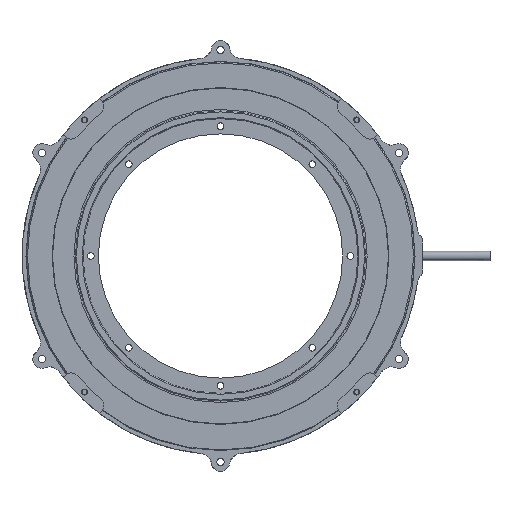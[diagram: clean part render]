
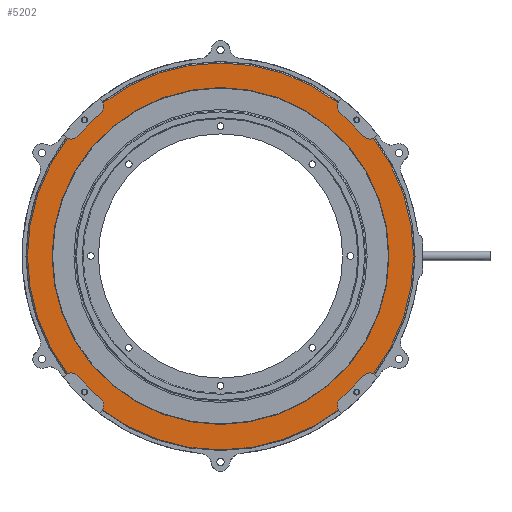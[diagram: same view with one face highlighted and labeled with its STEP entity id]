
A CAD part, front view. The second image highlights one B-rep face of the part: STEP entity #5202.
In plain terms, the highlighted planar face has unit normal (0, -1, 0).
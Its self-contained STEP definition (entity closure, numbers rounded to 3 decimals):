
#128=FACE_BOUND('',#876,.T.);
#242=PLANE('',#5692);
#573=FACE_OUTER_BOUND('',#875,.T.);
#875=EDGE_LOOP('',(#3686,#3687,#3688,#3689,#3690,#3691,#3692,#3693,#3694,
#3695,#3696,#3697,#3698,#3699,#3700,#3701));
#876=EDGE_LOOP('',(#3702));
#1947=CIRCLE('',#5672,63.2);
#1949=CIRCLE('',#5675,3.);
#1952=CIRCLE('',#5680,63.2);
#1954=CIRCLE('',#5683,3.);
#1957=CIRCLE('',#5688,63.2);
#1958=CIRCLE('',#5690,3.);
#1960=CIRCLE('',#5693,61.);
#1961=CIRCLE('',#5694,3.);
#1962=CIRCLE('',#5695,61.);
#1963=CIRCLE('',#5696,3.);
#1964=CIRCLE('',#5697,61.);
#1965=CIRCLE('',#5698,3.);
#1966=CIRCLE('',#5699,63.5);
#1967=CIRCLE('',#5700,3.);
#1968=CIRCLE('',#5701,61.);
#1969=CIRCLE('',#5702,3.);
#1970=CIRCLE('',#5703,55.15);
#2314=VERTEX_POINT('',#8179);
#2316=VERTEX_POINT('',#8186);
#2320=VERTEX_POINT('',#8199);
#2323=VERTEX_POINT('',#8208);
#2325=VERTEX_POINT('',#8215);
#2329=VERTEX_POINT('',#8228);
#2332=VERTEX_POINT('',#8237);
#2334=VERTEX_POINT('',#8244);
#2335=VERTEX_POINT('',#8251);
#2339=VERTEX_POINT('',#8261);
#2340=VERTEX_POINT('',#8265);
#2341=VERTEX_POINT('',#8267);
#2342=VERTEX_POINT('',#8269);
#2343=VERTEX_POINT('',#8271);
#2344=VERTEX_POINT('',#8273);
#2345=VERTEX_POINT('',#8275);
#2346=VERTEX_POINT('',#8278);
#2847=EDGE_CURVE('',#2316,#2314,#1947,.T.);
#2852=EDGE_CURVE('',#2316,#2320,#1949,.F.);
#2858=EDGE_CURVE('',#2325,#2323,#1952,.T.);
#2863=EDGE_CURVE('',#2325,#2329,#1954,.F.);
#2869=EDGE_CURVE('',#2334,#2332,#1957,.T.);
#2870=EDGE_CURVE('',#2335,#2332,#1958,.F.);
#2875=EDGE_CURVE('',#2320,#2339,#1960,.T.);
#2876=EDGE_CURVE('',#2339,#2323,#1961,.F.);
#2877=EDGE_CURVE('',#2329,#2335,#1962,.T.);
#2878=EDGE_CURVE('',#2334,#2340,#1963,.F.);
#2879=EDGE_CURVE('',#2340,#2341,#1964,.T.);
#2880=EDGE_CURVE('',#2341,#2342,#1965,.F.);
#2881=EDGE_CURVE('',#2343,#2342,#1966,.T.);
#2882=EDGE_CURVE('',#2343,#2344,#1967,.F.);
#2883=EDGE_CURVE('',#2344,#2345,#1968,.T.);
#2884=EDGE_CURVE('',#2345,#2314,#1969,.F.);
#2885=EDGE_CURVE('',#2346,#2346,#1970,.T.);
#3686=ORIENTED_EDGE('',*,*,#2847,.F.);
#3687=ORIENTED_EDGE('',*,*,#2852,.T.);
#3688=ORIENTED_EDGE('',*,*,#2875,.T.);
#3689=ORIENTED_EDGE('',*,*,#2876,.T.);
#3690=ORIENTED_EDGE('',*,*,#2858,.F.);
#3691=ORIENTED_EDGE('',*,*,#2863,.T.);
#3692=ORIENTED_EDGE('',*,*,#2877,.T.);
#3693=ORIENTED_EDGE('',*,*,#2870,.T.);
#3694=ORIENTED_EDGE('',*,*,#2869,.F.);
#3695=ORIENTED_EDGE('',*,*,#2878,.T.);
#3696=ORIENTED_EDGE('',*,*,#2879,.T.);
#3697=ORIENTED_EDGE('',*,*,#2880,.T.);
#3698=ORIENTED_EDGE('',*,*,#2881,.F.);
#3699=ORIENTED_EDGE('',*,*,#2882,.T.);
#3700=ORIENTED_EDGE('',*,*,#2883,.T.);
#3701=ORIENTED_EDGE('',*,*,#2884,.T.);
#3702=ORIENTED_EDGE('',*,*,#2885,.F.);
#5202=ADVANCED_FACE('',(#573,#128),#242,.F.);
#5672=AXIS2_PLACEMENT_3D('',#8191,#6406,#6407);
#5675=AXIS2_PLACEMENT_3D('',#8201,#6415,#6416);
#5680=AXIS2_PLACEMENT_3D('',#8220,#6426,#6427);
#5683=AXIS2_PLACEMENT_3D('',#8230,#6435,#6436);
#5688=AXIS2_PLACEMENT_3D('',#8249,#6446,#6447);
#5690=AXIS2_PLACEMENT_3D('',#8252,#6450,#6451);
#5692=AXIS2_PLACEMENT_3D('',#8260,#6457,#6458);
#5693=AXIS2_PLACEMENT_3D('',#8262,#6459,#6460);
#5694=AXIS2_PLACEMENT_3D('',#8263,#6461,#6462);
#5695=AXIS2_PLACEMENT_3D('',#8264,#6463,#6464);
#5696=AXIS2_PLACEMENT_3D('',#8266,#6465,#6466);
#5697=AXIS2_PLACEMENT_3D('',#8268,#6467,#6468);
#5698=AXIS2_PLACEMENT_3D('',#8270,#6469,#6470);
#5699=AXIS2_PLACEMENT_3D('',#8272,#6471,#6472);
#5700=AXIS2_PLACEMENT_3D('',#8274,#6473,#6474);
#5701=AXIS2_PLACEMENT_3D('',#8276,#6475,#6476);
#5702=AXIS2_PLACEMENT_3D('',#8277,#6477,#6478);
#5703=AXIS2_PLACEMENT_3D('',#8279,#6479,#6480);
#6406=DIRECTION('center_axis',(0.,1.,0.));
#6407=DIRECTION('ref_axis',(1.,0.,0.));
#6415=DIRECTION('center_axis',(0.,-1.,0.));
#6416=DIRECTION('ref_axis',(-0.764,0.,-0.645));
#6426=DIRECTION('center_axis',(0.,1.,0.));
#6427=DIRECTION('ref_axis',(-1.,0.,0.));
#6435=DIRECTION('center_axis',(0.,-1.,0.));
#6436=DIRECTION('ref_axis',(0.645,0.,-0.764));
#6446=DIRECTION('center_axis',(0.,1.,0.));
#6447=DIRECTION('ref_axis',(-1.,0.,0.));
#6450=DIRECTION('center_axis',(0.,-1.,0.));
#6451=DIRECTION('ref_axis',(0.764,0.,-0.645));
#6457=DIRECTION('center_axis',(0.,1.,0.));
#6458=DIRECTION('ref_axis',(0.,0.,1.));
#6459=DIRECTION('center_axis',(0.,-1.,0.));
#6460=DIRECTION('ref_axis',(0.,0.,-1.));
#6461=DIRECTION('center_axis',(0.,-1.,0.));
#6462=DIRECTION('ref_axis',(-0.645,0.,-0.764));
#6463=DIRECTION('center_axis',(0.,-1.,0.));
#6464=DIRECTION('ref_axis',(1.,0.,0.));
#6465=DIRECTION('center_axis',(0.,-1.,0.));
#6466=DIRECTION('ref_axis',(0.764,0.,0.645));
#6467=DIRECTION('center_axis',(0.,-1.,0.));
#6468=DIRECTION('ref_axis',(0.,0.,1.));
#6469=DIRECTION('center_axis',(0.,-1.,0.));
#6470=DIRECTION('ref_axis',(0.645,0.,0.764));
#6471=DIRECTION('center_axis',(0.,1.,0.));
#6472=DIRECTION('ref_axis',(-1.,0.,0.));
#6473=DIRECTION('center_axis',(0.,-1.,0.));
#6474=DIRECTION('ref_axis',(-0.645,0.,0.764));
#6475=DIRECTION('center_axis',(0.,-1.,0.));
#6476=DIRECTION('ref_axis',(-1.,0.,0.));
#6477=DIRECTION('center_axis',(0.,-1.,0.));
#6478=DIRECTION('ref_axis',(-0.764,0.,0.645));
#6479=DIRECTION('center_axis',(0.,-1.,0.));
#6480=DIRECTION('ref_axis',(-1.,0.,0.));
#8179=CARTESIAN_POINT('',(50.104,0.,-38.521));
#8186=CARTESIAN_POINT('',(50.104,0.,38.521));
#8191=CARTESIAN_POINT('Origin',(0.,0.,0.));
#8199=CARTESIAN_POINT('',(46.62,0.,39.339));
#8201=CARTESIAN_POINT('Origin',(48.913,0.,41.274));
#8208=CARTESIAN_POINT('',(38.521,0.,50.104));
#8215=CARTESIAN_POINT('',(-38.521,0.,50.104));
#8220=CARTESIAN_POINT('Origin',(0.,0.,0.));
#8228=CARTESIAN_POINT('',(-39.339,0.,46.62));
#8230=CARTESIAN_POINT('Origin',(-41.274,0.,48.913));
#8237=CARTESIAN_POINT('',(-50.104,0.,38.521));
#8244=CARTESIAN_POINT('',(-50.104,0.,-38.521));
#8249=CARTESIAN_POINT('Origin',(0.,0.,0.));
#8251=CARTESIAN_POINT('',(-46.62,0.,39.339));
#8252=CARTESIAN_POINT('Origin',(-48.913,0.,41.274));
#8260=CARTESIAN_POINT('Origin',(0.,0.,0.));
#8261=CARTESIAN_POINT('',(39.339,0.,46.62));
#8262=CARTESIAN_POINT('Origin',(0.,0.,0.));
#8263=CARTESIAN_POINT('Origin',(41.274,0.,48.913));
#8264=CARTESIAN_POINT('Origin',(0.,0.,0.));
#8265=CARTESIAN_POINT('',(-46.62,0.,-39.339));
#8266=CARTESIAN_POINT('Origin',(-48.913,0.,-41.274));
#8267=CARTESIAN_POINT('',(-39.339,0.,-46.62));
#8268=CARTESIAN_POINT('Origin',(0.,0.,0.));
#8269=CARTESIAN_POINT('',(-38.656,0.,-50.378));
#8270=CARTESIAN_POINT('Origin',(-41.274,0.,-48.913));
#8271=CARTESIAN_POINT('',(38.656,0.,-50.378));
#8272=CARTESIAN_POINT('Origin',(0.,0.,0.));
#8273=CARTESIAN_POINT('',(39.339,0.,-46.62));
#8274=CARTESIAN_POINT('Origin',(41.274,0.,-48.913));
#8275=CARTESIAN_POINT('',(46.62,0.,-39.339));
#8276=CARTESIAN_POINT('Origin',(0.,0.,0.));
#8277=CARTESIAN_POINT('Origin',(48.913,0.,-41.274));
#8278=CARTESIAN_POINT('',(55.15,0.,0.));
#8279=CARTESIAN_POINT('Origin',(0.,0.,0.));
